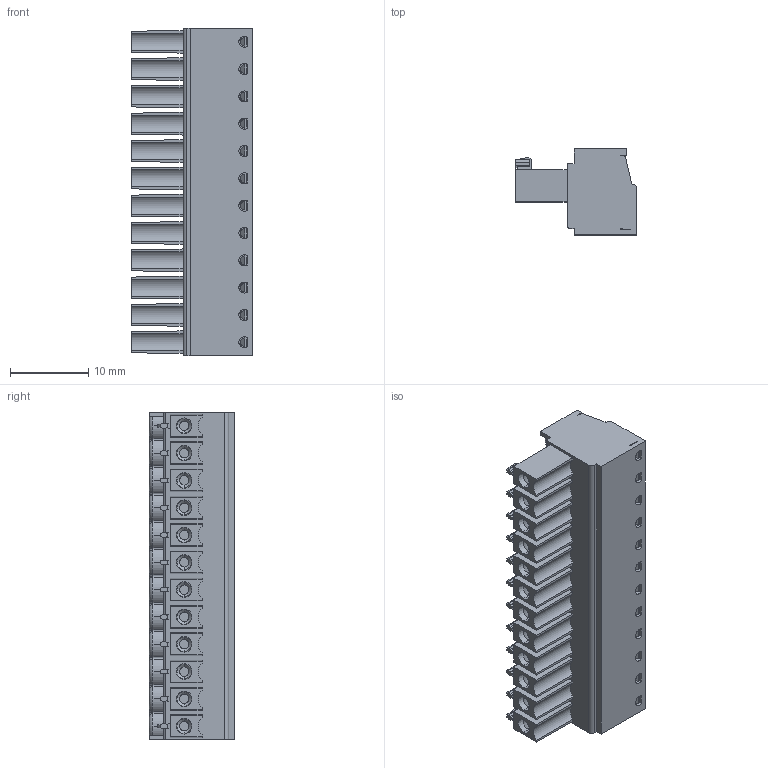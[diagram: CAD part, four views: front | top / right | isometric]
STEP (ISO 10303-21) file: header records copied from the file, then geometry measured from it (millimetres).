
FILE_DESCRIPTION (( 'STEP AP214' ), '1' );
FILE_NAME ('110-A-111-12.STEP', '2007-09-25T06:05:48', ( ' ' ), ( '' ), 'SwSTEP 2.0', 'SolidWorks 2007', '' );
FILE_SCHEMA (( 'AUTOMOTIVE_DESIGN' ));
Products named in the file (1): 110-A-111-12
Bounding box: 15.5 x 11 x 42 mm (x, y, z)
Volume: 4134.6 mm3; surface area: 4239.7 mm2
Topology: 1 solids, 11 shells, 1650 faces, 4208 edges, 2676 vertices
Faces by surface type: plane 918, cylinder 374, cone 180, torus 94, bspline 84
Entity records: 52682 total; most frequent: CARTESIAN_POINT 13135, ORIENTED_EDGE 8416, DIRECTION 8006, EDGE_CURVE 4208, AXIS2_PLACEMENT_3D 2685, VERTEX_POINT 2676, LINE 2636, VECTOR 2636
